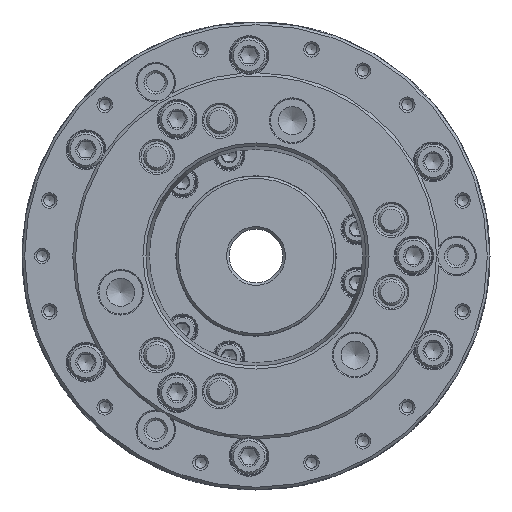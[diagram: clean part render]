
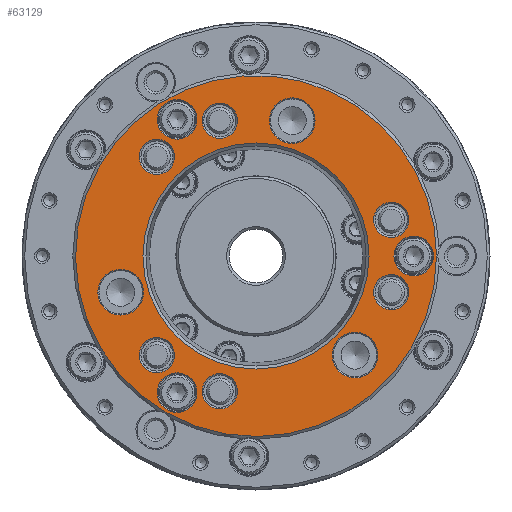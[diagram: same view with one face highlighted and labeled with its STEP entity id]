
A CAD part, left-side view. The second image highlights one B-rep face of the part: STEP entity #63129.
In plain terms, the highlighted planar face has unit normal (-1, 0, 0).
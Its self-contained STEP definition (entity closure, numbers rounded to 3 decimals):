
#843 = EDGE_LOOP ( 'NONE', ( #52064 ) ) ;
#1628 = AXIS2_PLACEMENT_3D ( 'NONE', #44194, #28310, #10726 ) ;
#2329 = DIRECTION ( 'NONE',  ( 1., 0., 0. ) ) ;
#2674 = VERTEX_POINT ( 'NONE', #21339 ) ;
#3400 = DIRECTION ( 'NONE',  ( 0., -1., 0. ) ) ;
#3635 = VERTEX_POINT ( 'NONE', #36533 ) ;
#3901 = CARTESIAN_POINT ( 'NONE',  ( -95., 29.5, 51.095 ) ) ;
#4465 = CIRCLE ( 'NONE', #71024, 6.6 ) ;
#4689 = VERTEX_POINT ( 'NONE', #28358 ) ;
#5506 = CARTESIAN_POINT ( 'NONE',  ( -95., -67.5, 0. ) ) ;
#7559 = DIRECTION ( 'NONE',  ( 0., 0., -1. ) ) ;
#7575 = CIRCLE ( 'NONE', #84578, 6.6 ) ;
#7906 = EDGE_LOOP ( 'NONE', ( #27547 ) ) ;
#7916 = CIRCLE ( 'NONE', #18456, 7.4 ) ;
#8585 = AXIS2_PLACEMENT_3D ( 'NONE', #58562, #16886, #50321 ) ;
#9170 = ORIENTED_EDGE ( 'NONE', *, *, #62946, .F. ) ;
#10726 = DIRECTION ( 'NONE',  ( 0., -1., 0. ) ) ;
#11032 = VERTEX_POINT ( 'NONE', #53823 ) ;
#13761 = DIRECTION ( 'NONE',  ( 0., 0., 1. ) ) ;
#14298 = FACE_BOUND ( 'NONE', #30380, .T. ) ;
#14808 = FACE_BOUND ( 'NONE', #72708, .T. ) ;
#16134 = CARTESIAN_POINT ( 'NONE',  ( -95., 37.045, -37.045 ) ) ;
#16608 = EDGE_CURVE ( 'NONE', #95693, #95693, #74208, .T. ) ;
#16886 = DIRECTION ( 'NONE',  ( 1., 0., 0. ) ) ;
#18343 = DIRECTION ( 'NONE',  ( 1., 0., 0. ) ) ;
#18456 = AXIS2_PLACEMENT_3D ( 'NONE', #3901, #45019, #13761 ) ;
#19443 = ORIENTED_EDGE ( 'NONE', *, *, #16608, .F. ) ;
#21111 = EDGE_LOOP ( 'NONE', ( #82351 ) ) ;
#21149 = FACE_OUTER_BOUND ( 'NONE', #98250, .T. ) ;
#21339 = CARTESIAN_POINT ( 'NONE',  ( -95., 29.5, 58.495 ) ) ;
#22190 = AXIS2_PLACEMENT_3D ( 'NONE', #66848, #99124, #7559 ) ;
#22210 = DIRECTION ( 'NONE',  ( 1., 0., 0. ) ) ;
#23320 = ORIENTED_EDGE ( 'NONE', *, *, #33829, .F. ) ;
#23982 = VERTEX_POINT ( 'NONE', #57435 ) ;
#24819 = CARTESIAN_POINT ( 'NONE',  ( -95., -42.279, 0. ) ) ;
#24821 = EDGE_LOOP ( 'NONE', ( #23320 ) ) ;
#24932 = DIRECTION ( 'NONE',  ( -1., 0., 0. ) ) ;
#25442 = CARTESIAN_POINT ( 'NONE',  ( -95., -59., 0. ) ) ;
#25586 = CARTESIAN_POINT ( 'NONE',  ( -95., 37.045, 37.045 ) ) ;
#26178 = CARTESIAN_POINT ( 'NONE',  ( -95., -50.605, -20.16 ) ) ;
#26714 = CARTESIAN_POINT ( 'NONE',  ( -95., 13.56, 44.005 ) ) ;
#27240 = VERTEX_POINT ( 'NONE', #26714 ) ;
#27547 = ORIENTED_EDGE ( 'NONE', *, *, #72643, .T. ) ;
#27779 = CIRCLE ( 'NONE', #88999, 8.54 ) ;
#27806 = CARTESIAN_POINT ( 'NONE',  ( -95., -22.1, 50.605 ) ) ;
#28310 = DIRECTION ( 'NONE',  ( -1., 0., 0. ) ) ;
#28358 = CARTESIAN_POINT ( 'NONE',  ( -95., 42.065, -13.56 ) ) ;
#29206 = ORIENTED_EDGE ( 'NONE', *, *, #29865, .F. ) ;
#29783 = ORIENTED_EDGE ( 'NONE', *, *, #37542, .T. ) ;
#29865 = EDGE_CURVE ( 'NONE', #68092, #68092, #87646, .T. ) ;
#30380 = EDGE_LOOP ( 'NONE', ( #80025 ) ) ;
#31951 = ORIENTED_EDGE ( 'NONE', *, *, #80170, .T. ) ;
#32203 = AXIS2_PLACEMENT_3D ( 'NONE', #82065, #40971, #97958 ) ;
#32636 = CIRCLE ( 'NONE', #22190, 6.6 ) ;
#32879 = FACE_BOUND ( 'NONE', #24821, .T. ) ;
#33790 = CARTESIAN_POINT ( 'NONE',  ( -95., -45.585, -37.045 ) ) ;
#33829 = EDGE_CURVE ( 'NONE', #11032, #11032, #71737, .T. ) ;
#34050 = DIRECTION ( 'NONE',  ( 0., 0., -1. ) ) ;
#34104 = DIRECTION ( 'NONE',  ( 0., 0., -1. ) ) ;
#34886 = VERTEX_POINT ( 'NONE', #71048 ) ;
#35154 = CARTESIAN_POINT ( 'NONE',  ( -95., 13.56, -50.605 ) ) ;
#35441 = VERTEX_POINT ( 'NONE', #33790 ) ;
#36476 = PLANE ( 'NONE',  #1628 ) ;
#36533 = CARTESIAN_POINT ( 'NONE',  ( -95., 37.045, -43.645 ) ) ;
#37542 = EDGE_CURVE ( 'NONE', #38409, #38409, #45274, .T. ) ;
#37996 = CARTESIAN_POINT ( 'NONE',  ( -95., 0., 0. ) ) ;
#38409 = VERTEX_POINT ( 'NONE', #5506 ) ;
#38694 = VERTEX_POINT ( 'NONE', #97283 ) ;
#40971 = DIRECTION ( 'NONE',  ( -1., 0., 0. ) ) ;
#41115 = FACE_BOUND ( 'NONE', #42244, .T. ) ;
#41841 = CIRCLE ( 'NONE', #8585, 6.6 ) ;
#42244 = EDGE_LOOP ( 'NONE', ( #19443 ) ) ;
#42744 = ORIENTED_EDGE ( 'NONE', *, *, #93517, .T. ) ;
#43013 = DIRECTION ( 'NONE',  ( 0., -1., 0. ) ) ;
#44194 = CARTESIAN_POINT ( 'NONE',  ( -95., -67.5, 0. ) ) ;
#45019 = DIRECTION ( 'NONE',  ( -1., 0., 0. ) ) ;
#45037 = CIRCLE ( 'NONE', #106283, 6.6 ) ;
#45274 = CIRCLE ( 'NONE', #68048, 67.5 ) ;
#45517 = AXIS2_PLACEMENT_3D ( 'NONE', #35154, #85577, #34050 ) ;
#46106 = DIRECTION ( 'NONE',  ( -1., 0., 0. ) ) ;
#46915 = EDGE_LOOP ( 'NONE', ( #29206 ) ) ;
#49122 = EDGE_LOOP ( 'NONE', ( #31951 ) ) ;
#49356 = FACE_BOUND ( 'NONE', #49122, .T. ) ;
#50321 = DIRECTION ( 'NONE',  ( 0., 0., -1. ) ) ;
#50803 = DIRECTION ( 'NONE',  ( 0., 0., -1. ) ) ;
#51978 = DIRECTION ( 'NONE',  ( 1., 0., 0. ) ) ;
#52064 = ORIENTED_EDGE ( 'NONE', *, *, #83637, .T. ) ;
#53823 = CARTESIAN_POINT ( 'NONE',  ( -95., -59., 7.4 ) ) ;
#54584 = FACE_BOUND ( 'NONE', #843, .T. ) ;
#57435 = CARTESIAN_POINT ( 'NONE',  ( -95., -50.605, 6.96 ) ) ;
#58362 = DIRECTION ( 'NONE',  ( 0., 0., 1. ) ) ;
#58562 = CARTESIAN_POINT ( 'NONE',  ( -95., 13.56, 50.605 ) ) ;
#60216 = DIRECTION ( 'NONE',  ( 0., -1., 0. ) ) ;
#62946 = EDGE_CURVE ( 'NONE', #2674, #2674, #7916, .T. ) ;
#63061 = EDGE_LOOP ( 'NONE', ( #84024 ) ) ;
#63129 = ADVANCED_FACE ( 'NONE', ( #82204, #49356, #41115, #74530, #107985, #14298, #97557, #89881, #14808, #32879, #94595, #54584, #21149, #102271 ), #36476, .T. ) ;
#63609 = CIRCLE ( 'NONE', #100303, 8.54 ) ;
#66848 = CARTESIAN_POINT ( 'NONE',  ( -95., -50.605, -13.56 ) ) ;
#68048 = AXIS2_PLACEMENT_3D ( 'NONE', #37996, #70376, #71456 ) ;
#68092 = VERTEX_POINT ( 'NONE', #24819 ) ;
#68128 = AXIS2_PLACEMENT_3D ( 'NONE', #103715, #85608, #3400 ) ;
#68387 = ORIENTED_EDGE ( 'NONE', *, *, #85826, .T. ) ;
#70376 = DIRECTION ( 'NONE',  ( -1., 0., 0. ) ) ;
#71024 = AXIS2_PLACEMENT_3D ( 'NONE', #16134, #22210, #75294 ) ;
#71048 = CARTESIAN_POINT ( 'NONE',  ( -95., 13.56, -57.205 ) ) ;
#71456 = DIRECTION ( 'NONE',  ( 0., -1., 0. ) ) ;
#71737 = CIRCLE ( 'NONE', #87447, 7.4 ) ;
#72643 = EDGE_CURVE ( 'NONE', #23982, #23982, #7575, .T. ) ;
#72708 = EDGE_LOOP ( 'NONE', ( #104800 ) ) ;
#74208 = CIRCLE ( 'NONE', #32203, 7.4 ) ;
#74530 = FACE_BOUND ( 'NONE', #107471, .T. ) ;
#75294 = DIRECTION ( 'NONE',  ( 0., 0., -1. ) ) ;
#77443 = CARTESIAN_POINT ( 'NONE',  ( -95., -50.605, 13.56 ) ) ;
#79064 = EDGE_CURVE ( 'NONE', #27240, #27240, #41841, .T. ) ;
#79546 = CARTESIAN_POINT ( 'NONE',  ( -95., 0., 0. ) ) ;
#80025 = ORIENTED_EDGE ( 'NONE', *, *, #86733, .T. ) ;
#80170 = EDGE_CURVE ( 'NONE', #35441, #35441, #63609, .T. ) ;
#80342 = CIRCLE ( 'NONE', #68128, 8.54 ) ;
#82065 = CARTESIAN_POINT ( 'NONE',  ( -95., 29.5, -51.095 ) ) ;
#82204 = FACE_BOUND ( 'NONE', #87252, .T. ) ;
#82351 = ORIENTED_EDGE ( 'NONE', *, *, #102295, .T. ) ;
#83637 = EDGE_CURVE ( 'NONE', #108405, #108405, #32636, .T. ) ;
#83823 = EDGE_LOOP ( 'NONE', ( #68387 ) ) ;
#84024 = ORIENTED_EDGE ( 'NONE', *, *, #79064, .T. ) ;
#84100 = CARTESIAN_POINT ( 'NONE',  ( -95., 50.605, -13.56 ) ) ;
#84578 = AXIS2_PLACEMENT_3D ( 'NONE', #77443, #2329, #34104 ) ;
#85577 = DIRECTION ( 'NONE',  ( 1., 0., 0. ) ) ;
#85608 = DIRECTION ( 'NONE',  ( 1., 0., 0. ) ) ;
#85826 = EDGE_CURVE ( 'NONE', #34886, #34886, #101518, .T. ) ;
#86733 = EDGE_CURVE ( 'NONE', #3635, #3635, #4465, .T. ) ;
#87252 = EDGE_LOOP ( 'NONE', ( #42744 ) ) ;
#87447 = AXIS2_PLACEMENT_3D ( 'NONE', #25442, #24932, #58362 ) ;
#87646 = CIRCLE ( 'NONE', #96373, 42.279 ) ;
#88292 = DIRECTION ( 'NONE',  ( 0., -1., 0. ) ) ;
#88999 = AXIS2_PLACEMENT_3D ( 'NONE', #84100, #18343, #43013 ) ;
#89881 = FACE_BOUND ( 'NONE', #63061, .T. ) ;
#90549 = CARTESIAN_POINT ( 'NONE',  ( -95., 29.5, -43.695 ) ) ;
#92421 = DIRECTION ( 'NONE',  ( 1., 0., 0. ) ) ;
#93175 = EDGE_CURVE ( 'NONE', #4689, #4689, #27779, .T. ) ;
#93517 = EDGE_CURVE ( 'NONE', #103939, #103939, #80342, .T. ) ;
#94595 = FACE_BOUND ( 'NONE', #7906, .T. ) ;
#94712 = CARTESIAN_POINT ( 'NONE',  ( -95., -37.045, -37.045 ) ) ;
#95693 = VERTEX_POINT ( 'NONE', #90549 ) ;
#96373 = AXIS2_PLACEMENT_3D ( 'NONE', #79546, #46106, #88292 ) ;
#97283 = CARTESIAN_POINT ( 'NONE',  ( -95., 37.045, 30.445 ) ) ;
#97557 = FACE_BOUND ( 'NONE', #21111, .T. ) ;
#97958 = DIRECTION ( 'NONE',  ( 0., 0., 1. ) ) ;
#98250 = EDGE_LOOP ( 'NONE', ( #29783 ) ) ;
#99124 = DIRECTION ( 'NONE',  ( 1., 0., 0. ) ) ;
#100303 = AXIS2_PLACEMENT_3D ( 'NONE', #94712, #51978, #60216 ) ;
#101518 = CIRCLE ( 'NONE', #45517, 6.6 ) ;
#102271 = FACE_BOUND ( 'NONE', #46915, .T. ) ;
#102295 = EDGE_CURVE ( 'NONE', #38694, #38694, #45037, .T. ) ;
#103715 = CARTESIAN_POINT ( 'NONE',  ( -95., -13.56, 50.605 ) ) ;
#103939 = VERTEX_POINT ( 'NONE', #27806 ) ;
#104800 = ORIENTED_EDGE ( 'NONE', *, *, #93175, .T. ) ;
#106283 = AXIS2_PLACEMENT_3D ( 'NONE', #25586, #92421, #50803 ) ;
#107471 = EDGE_LOOP ( 'NONE', ( #9170 ) ) ;
#107985 = FACE_BOUND ( 'NONE', #83823, .T. ) ;
#108405 = VERTEX_POINT ( 'NONE', #26178 ) ;
